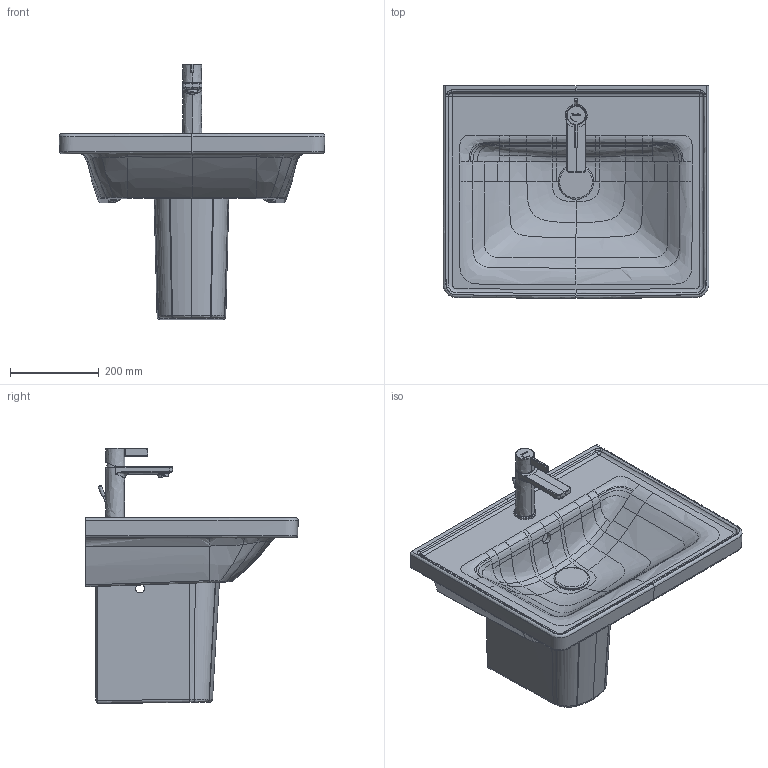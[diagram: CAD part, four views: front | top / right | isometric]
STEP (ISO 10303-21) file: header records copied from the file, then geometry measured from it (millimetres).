
FILE_DESCRIPTION(/* description */ (''),/* implementation_level */ '2;1');
FILE_NAME(/* name */ '236760_085843',/* time_stamp */ '2021-09-22T11:27:59+02:00',/* author */ (''),/* organization */ (''),/* preprocessor_version */ 'ST-DEVELOPER v15',/* originating_system */ '',/* authorisation */ '');
FILE_SCHEMA (('AUTOMOTIVE_DESIGN'));
Length unit declared in the file: millimetre
Products named in the file (1): Document
Bounding box: 600.17 x 480.08 x 576.4 mm (x, y, z)
Volume: 2976033.4 mm3; surface area: 1463445.6 mm2
Topology: 4 solids, 10 shells, 691 faces, 1678 edges, 1018 vertices
Faces by surface type: bspline 548, plane 143
Entity records: 99004 total; most frequent: CARTESIAN_POINT 88578, ORIENTED_EDGE 3318, EDGE_CURVE 1672, B_SPLINE_CURVE_WITH_KNOTS 1379, VERTEX_POINT 1018, EDGE_LOOP 732, ADVANCED_FACE 691, FACE_OUTER_BOUND 691
